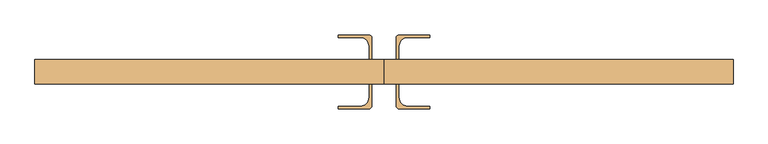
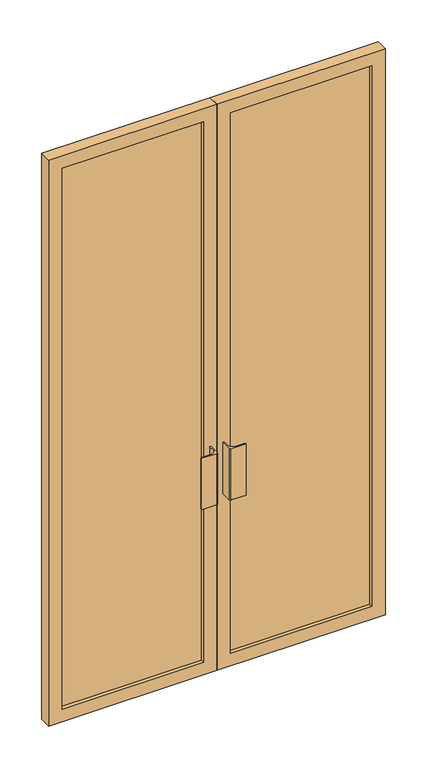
"""IFC4 building model written with IfcOpenShell, lengths in millimetres: door geometry, 门嵌板_双开门3 : 门嵌板_双开门 3."""

from ifc_helpers import new_model, si_unit, point, frame, frame_2d, origin, place, context, project, spatial, polyline, circle_curve, trimmed, segment, composite_curve, outline, extrude, source, transform, mapped, element, save


def door_a6c7acc9(model_context):
    return source(origin(), model_context, "Body", "SweptSolid", [
        extrude(outline(composite_curve([segment(polyline([(-25.0, -25.0), (-25.0, -70.0)]), True, "CONTINUOUS"), segment(trimmed(circle_curve(frame_2d((-31.0, -70.0)), 6.0), [point((-25.0, -70.0))], [point((-31.0, -76.0))], False, "CARTESIAN"), True, "CONTINUOUS"), segment(polyline([(-31.0, -76.0), (-94.0, -76.0), (-94.0, -70.5), (-48.5, -70.5)]), True, "CONTINUOUS"), segment(trimmed(circle_curve(frame_2d((-48.5, -52.5)), 18.0), [point((-48.5, -70.5))], [point((-30.5, -52.5))], True, "CARTESIAN"), True, "CONTINUOUS"), segment(polyline([(-30.5, -52.5), (-30.5, -25.0), (-25.0, -25.0)]), True, "CONTINUOUS")], self_intersect=False)), frame((0.0, 0.0, 785.0), z_axis=(0.0, 0.0, 1.0), x_axis=(1.0, 0.0, 0.0)), (0.0, 0.0, 1.0), 230.0),
        extrude(outline(composite_curve([segment(polyline([(-25.0, 25.0), (-30.5, 25.0), (-30.5, 52.5)]), True, "CONTINUOUS"), segment(trimmed(circle_curve(frame_2d((-48.5, 52.5)), 18.0), [point((-30.5, 52.5))], [point((-48.5, 70.5))], True, "CARTESIAN"), True, "CONTINUOUS"), segment(polyline([(-48.5, 70.5), (-94.0, 70.5), (-94.0, 76.0), (-31.0, 76.0)]), True, "CONTINUOUS"), segment(trimmed(circle_curve(frame_2d((-31.0, 70.0)), 6.0), [point((-31.0, 76.0))], [point((-25.0, 70.0))], False, "CARTESIAN"), True, "CONTINUOUS"), segment(polyline([(-25.0, 70.0), (-25.0, 25.0)]), True, "CONTINUOUS")], self_intersect=False)), frame((0.0, 0.0, 785.0), z_axis=(0.0, 0.0, 1.0), x_axis=(1.0, 0.0, 0.0)), (0.0, 0.0, 1.0), 230.0),
        extrude(outline(composite_curve([segment(polyline([(25.0, -25.0), (30.5, -25.0), (30.5, -52.5)]), True, "CONTINUOUS"), segment(trimmed(circle_curve(frame_2d((48.5, -52.5)), 18.0), [point((30.5, -52.5))], [point((48.5, -70.5))], True, "CARTESIAN"), True, "CONTINUOUS"), segment(polyline([(48.5, -70.5), (94.0, -70.5), (94.0, -76.0), (31.0, -76.0)]), True, "CONTINUOUS"), segment(trimmed(circle_curve(frame_2d((31.0, -70.0)), 6.0), [point((31.0, -76.0))], [point((25.0, -70.0))], False, "CARTESIAN"), True, "CONTINUOUS"), segment(polyline([(25.0, -70.0), (25.0, -25.0)]), True, "CONTINUOUS")], self_intersect=False)), frame((0.0, 0.0, 785.0), z_axis=(0.0, 0.0, 1.0), x_axis=(1.0, 0.0, 0.0)), (0.0, 0.0, 1.0), 230.0),
        extrude(outline(composite_curve([segment(polyline([(25.0, 25.0), (25.0, 70.0)]), True, "CONTINUOUS"), segment(trimmed(circle_curve(frame_2d((31.0, 70.0)), 6.0), [point((25.0, 70.0))], [point((31.0, 76.0))], False, "CARTESIAN"), True, "CONTINUOUS"), segment(polyline([(31.0, 76.0), (94.0, 76.0), (94.0, 70.5), (48.5, 70.5)]), True, "CONTINUOUS"), segment(trimmed(circle_curve(frame_2d((48.5, 52.5)), 18.0), [point((48.5, 70.5))], [point((30.5, 52.5))], True, "CARTESIAN"), True, "CONTINUOUS"), segment(polyline([(30.5, 52.5), (30.5, 25.0), (25.0, 25.0)]), True, "CONTINUOUS")], self_intersect=False)), frame((0.0, 0.0, 785.0), z_axis=(0.0, 0.0, 1.0), x_axis=(1.0, 0.0, 0.0)), (0.0, 0.0, 1.0), 230.0),
        extrude(outline(polyline([(2540.0, 715.0), (2540.0, 0.0), (0.0, 0.0), (0.0, 715.0), (2540.0, 715.0)]), holes=[polyline([(2482.85, 657.85), (57.15, 657.85), (57.15, 56.94375), (2482.85, 56.94375), (2482.85, 657.85)])]), frame((0.0, -25.0, 0.0), z_axis=(0.0, 1.0, 0.0), x_axis=(0.0, 0.0, 1.0)), (0.0, 0.0, 1.0), 50.0),
        extrude(outline(polyline([(657.85, 10.0), (657.85, -10.0), (56.94375, -10.0), (56.94375, 10.0), (657.85, 10.0)])), frame((0.0, 0.0, 57.15), z_axis=(0.0, 0.0, 1.0), x_axis=(1.0, 0.0, 0.0)), (0.0, 0.0, 1.0), 2425.7),
        extrude(outline(polyline([(-56.94375, 10.0), (-56.94375, -10.0), (-657.85, -10.0), (-657.85, 10.0), (-56.94375, 10.0)])), frame((0.0, 0.0, 57.15), z_axis=(0.0, 0.0, 1.0), x_axis=(1.0, 0.0, 0.0)), (0.0, 0.0, 1.0), 2425.7),
        extrude(outline(polyline([(2540.0, 0.0), (2540.0, -715.0), (0.0, -715.0), (0.0, 0.0), (2540.0, 0.0)]), holes=[polyline([(2482.85, -657.85), (2482.85, -56.94375), (57.15, -56.94375), (57.15, -657.85), (2482.85, -657.85)])]), frame((0.0, -25.0, 0.0), z_axis=(0.0, 1.0, 0.0), x_axis=(0.0, 0.0, 1.0)), (0.0, 0.0, 1.0), 50.0),
    ])


if __name__ == "__main__":
    model = new_model("IFC4")
    model_context = context("Model", 3, world=origin())
    ifc_project = project(units=[si_unit("LENGTHUNIT", "METRE", prefix="MILLI")], contexts=[model_context])
    site = spatial("IfcSite", under=ifc_project)
    building = spatial("IfcBuilding", under=site)
    placement = place(None, origin())
    door_shape = door_a6c7acc9(model_context)
    element("IfcDoor", 1, ObjectType="门嵌板_双开门3 : 门嵌板_双开门 3", at=placement, inside=building, context=model_context, shape_type="MappedRepresentation", body=[
        mapped(door_shape, transform((0.0, 0.0, 0.0), x_axis=(1.0, 0.0, 0.0), y_axis=(0.0, 1.0, 0.0), z_axis=(0.0, 0.0, 1.0))),
    ])
    save(model, "model.ifc")
